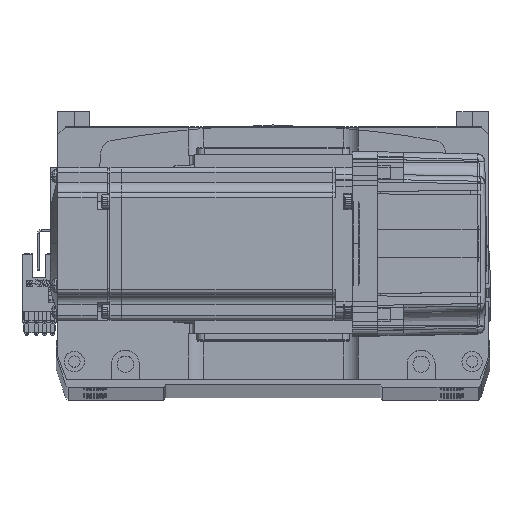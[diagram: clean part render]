
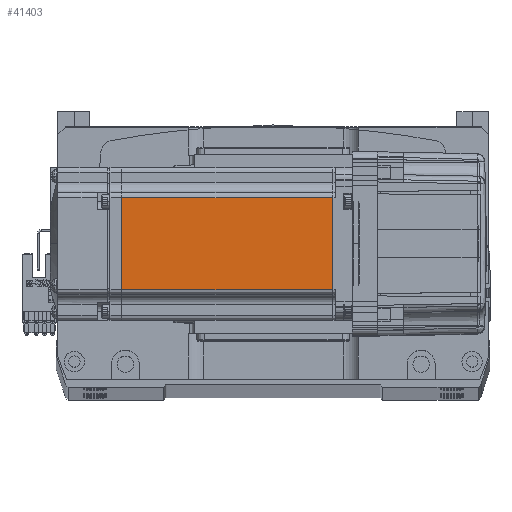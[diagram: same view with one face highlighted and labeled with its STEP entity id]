
A CAD part, top view. The second image highlights one B-rep face of the part: STEP entity #41403.
In plain terms, the highlighted planar face has unit normal (0, 0, 1).
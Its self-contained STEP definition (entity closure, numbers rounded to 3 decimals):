
#1557 = PLANE ( 'NONE',  #47141 ) ;
#3023 = ORIENTED_EDGE ( 'NONE', *, *, #39341, .F. ) ;
#6762 = VERTEX_POINT ( 'NONE', #29275 ) ;
#10861 = VERTEX_POINT ( 'NONE', #17218 ) ;
#15091 = LINE ( 'NONE', #45655, #24442 ) ;
#15975 = DIRECTION ( 'NONE',  ( 0., -1., 0. ) ) ;
#16696 = LINE ( 'NONE', #50888, #17574 ) ;
#17218 = CARTESIAN_POINT ( 'NONE',  ( -90.45, 18., 30. ) ) ;
#17574 = VECTOR ( 'NONE', #67919, 1000. ) ;
#18052 = ORIENTED_EDGE ( 'NONE', *, *, #57281, .T. ) ;
#21449 = VERTEX_POINT ( 'NONE', #63184 ) ;
#23327 = DIRECTION ( 'NONE',  ( -1., 0., 0. ) ) ;
#24442 = VECTOR ( 'NONE', #68185, 1000. ) ;
#26670 = CARTESIAN_POINT ( 'NONE',  ( -90.45, 0., 30. ) ) ;
#29275 = CARTESIAN_POINT ( 'NONE',  ( -7.75, -18., 30. ) ) ;
#33558 = EDGE_CURVE ( 'NONE', #10861, #21449, #63122, .T. ) ;
#33713 = EDGE_CURVE ( 'NONE', #6762, #21449, #56228, .T. ) ;
#34435 = DIRECTION ( 'NONE',  ( 1., 0., 0. ) ) ;
#39341 = EDGE_CURVE ( 'NONE', #49323, #6762, #16696, .T. ) ;
#39481 = CARTESIAN_POINT ( 'NONE',  ( -7.75, 18., 30. ) ) ;
#41403 = ADVANCED_FACE ( 'NONE', ( #54073 ), #1557, .T. ) ;
#45472 = CARTESIAN_POINT ( 'NONE',  ( -6.5, -25., 30. ) ) ;
#45655 = CARTESIAN_POINT ( 'NONE',  ( -6.5, 18., 30. ) ) ;
#47141 = AXIS2_PLACEMENT_3D ( 'NONE', #45472, #67291, #34435 ) ;
#47825 = ORIENTED_EDGE ( 'NONE', *, *, #33713, .F. ) ;
#49323 = VERTEX_POINT ( 'NONE', #39481 ) ;
#50575 = CARTESIAN_POINT ( 'NONE',  ( -6.5, -18., 30. ) ) ;
#50888 = CARTESIAN_POINT ( 'NONE',  ( -7.75, 0., 30. ) ) ;
#50996 = ORIENTED_EDGE ( 'NONE', *, *, #33558, .T. ) ;
#52788 = VECTOR ( 'NONE', #23327, 1000. ) ;
#54073 = FACE_OUTER_BOUND ( 'NONE', #63961, .T. ) ;
#56228 = LINE ( 'NONE', #50575, #52788 ) ;
#57281 = EDGE_CURVE ( 'NONE', #49323, #10861, #15091, .T. ) ;
#63122 = LINE ( 'NONE', #26670, #69111 ) ;
#63184 = CARTESIAN_POINT ( 'NONE',  ( -90.45, -18., 30. ) ) ;
#63961 = EDGE_LOOP ( 'NONE', ( #3023, #18052, #50996, #47825 ) ) ;
#67291 = DIRECTION ( 'NONE',  ( 0., 0., 1. ) ) ;
#67919 = DIRECTION ( 'NONE',  ( 0., -1., 0. ) ) ;
#68185 = DIRECTION ( 'NONE',  ( -1., 0., 0. ) ) ;
#69111 = VECTOR ( 'NONE', #15975, 1000. ) ;
